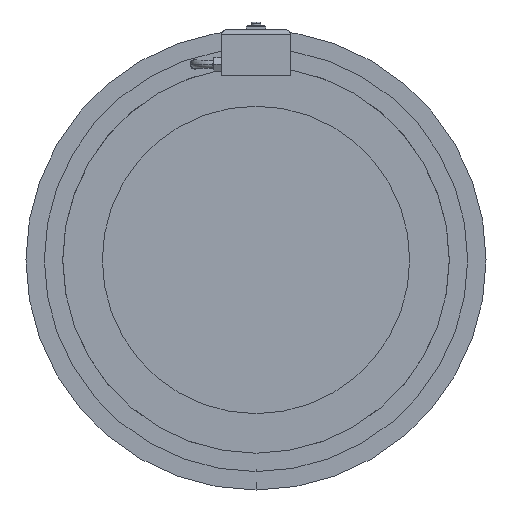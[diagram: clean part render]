
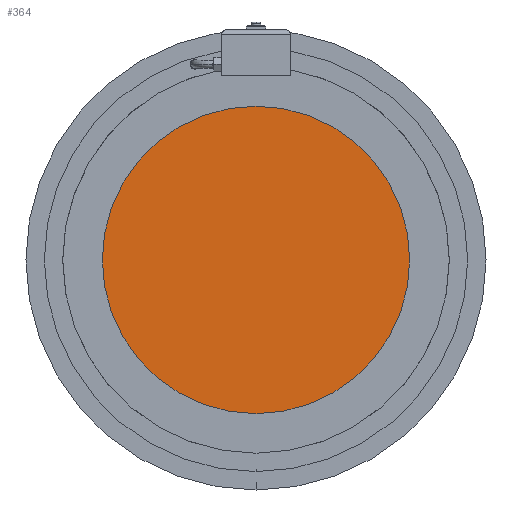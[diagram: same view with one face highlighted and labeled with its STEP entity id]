
A CAD part, front view. The second image highlights one B-rep face of the part: STEP entity #364.
In plain terms, the highlighted planar face has unit normal (0, -1, 0).
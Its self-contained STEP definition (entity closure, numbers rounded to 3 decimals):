
#364=ADVANCED_FACE('',(#754),#755,.T.);
#754=FACE_OUTER_BOUND('',#1135,.T.);
#755=PLANE('',#1136);
#1135=EDGE_LOOP('',(#2179,#2180));
#1136=AXIS2_PLACEMENT_3D('',#2181,#2182,#2183);
#2179=ORIENTED_EDGE('',*,*,#2248,.T.);
#2180=ORIENTED_EDGE('',*,*,#2624,.T.);
#2181=CARTESIAN_POINT('',(0.,-288.0,0.));
#2182=DIRECTION('',(0.,-1.0,0.));
#2183=DIRECTION('',(0.,0.0,1.0));
#2248=EDGE_CURVE('',#2715,#2721,#2723,.T.);
#2624=EDGE_CURVE('',#2721,#2715,#3276,.T.);
#2715=VERTEX_POINT('',#4313);
#2721=VERTEX_POINT('',#4320);
#2723=CIRCLE('',#4323,157.0);
#3276=CIRCLE('',#5830,157.0);
#4313=CARTESIAN_POINT('',(0.,-288.0,157.0));
#4320=CARTESIAN_POINT('',(0.,-288.0,-157.0));
#4323=AXIS2_PLACEMENT_3D('',#5906,#5907,#5908);
#5830=AXIS2_PLACEMENT_3D('',#6402,#6403,#6404);
#5906=CARTESIAN_POINT('',(0.,-288.0,0.));
#5907=DIRECTION('',(0.,-1.0,0.));
#5908=DIRECTION('',(0.,0.0,1.0));
#6402=CARTESIAN_POINT('',(0.,-288.0,0.));
#6403=DIRECTION('',(0.,-1.0,0.));
#6404=DIRECTION('',(0.,0.0,1.0));
